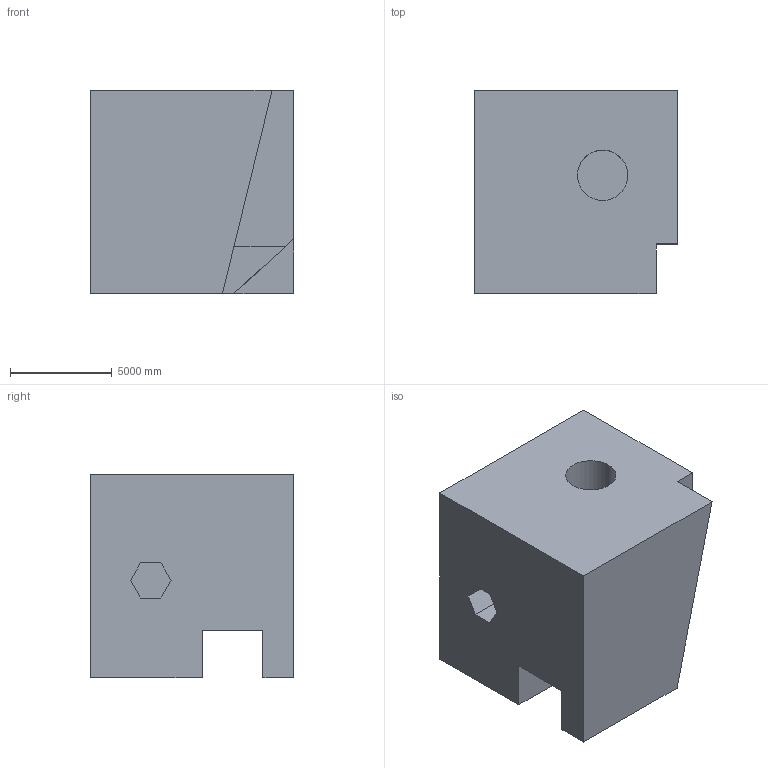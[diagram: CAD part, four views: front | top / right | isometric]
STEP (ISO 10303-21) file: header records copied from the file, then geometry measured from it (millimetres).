
FILE_DESCRIPTION (( 'STEP AP203' ), '1' );
FILE_NAME ('313.STEP', '2022-09-07T12:48:07', ( 'user' ), ( '' ), 'SwSTEP 2.0', 'SolidWorks 2021', '' );
FILE_SCHEMA (( 'CONFIG_CONTROL_DESIGN' ));
Length unit declared in the file: centimetre
Products named in the file (1): 313
Bounding box: 10000 x 10000 x 10000 mm (x, y, z)
Volume: 832887771257.8 mm3; surface area: 653780828.9 mm2
Topology: 1 solids, 1 shells, 26 faces, 66 edges, 44 vertices
Faces by surface type: plane 24, cylinder 2
Entity records: 851 total; most frequent: CARTESIAN_POINT 137, ORIENTED_EDGE 132, DIRECTION 124, EDGE_CURVE 66, VECTOR 62, LINE 62, VERTEX_POINT 44, AXIS2_PLACEMENT_3D 31
